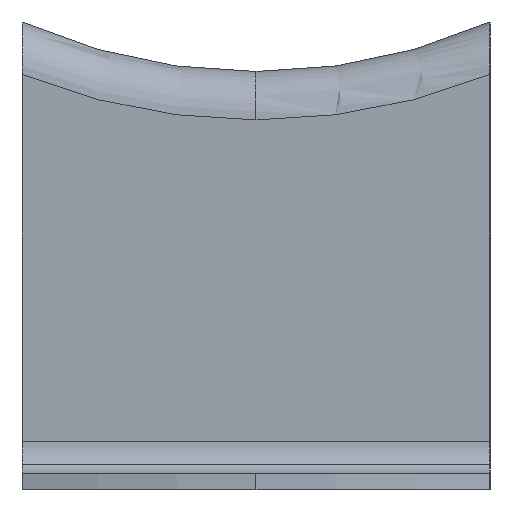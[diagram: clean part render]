
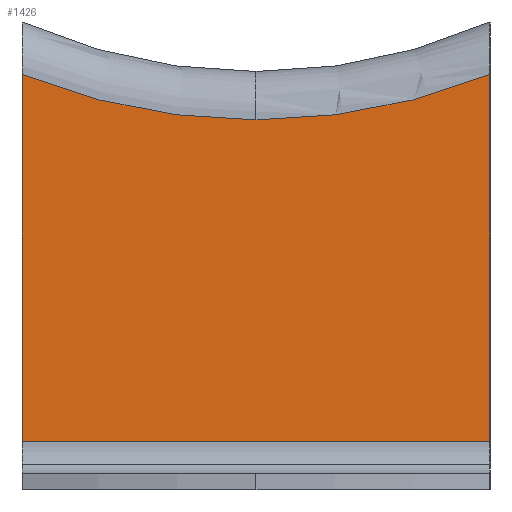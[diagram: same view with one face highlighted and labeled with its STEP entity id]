
A CAD part, left-side view. The second image highlights one B-rep face of the part: STEP entity #1426.
In plain terms, the highlighted planar face has unit normal (-1, 0, 0).
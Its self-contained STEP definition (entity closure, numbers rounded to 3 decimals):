
#487=CARTESIAN_POINT('',(-49.0,0.,8.432));
#488=VERTEX_POINT('',#487);
#505=CARTESIAN_POINT('',(-49.0,14.5,11.241));
#506=VERTEX_POINT('',#505);
#528=CARTESIAN_POINT('',(-49.0,0.,47.269));
#529=DIRECTION('',(-1.0,0.0,0.0));
#530=DIRECTION('',(0.0,0.0,-1.0));
#531=AXIS2_PLACEMENT_3D('',#528,#529,#530);
#532=CIRCLE('',#531,38.836);
#533=EDGE_CURVE('',#506,#488,#532,.T.);
#967=CARTESIAN_POINT('',(-49.0,-14.5,11.241));
#968=VERTEX_POINT('',#967);
#990=CARTESIAN_POINT('',(-49.0,-14.5,-11.5));
#991=VERTEX_POINT('',#990);
#992=CARTESIAN_POINT('',(-49.0,-14.5,-11.5));
#993=DIRECTION('',(0.0,0.0,1.0));
#994=VECTOR('',#993,22.741);
#995=LINE('',#992,#994);
#996=EDGE_CURVE('',#991,#968,#995,.T.);
#1094=CARTESIAN_POINT('',(-49.0,14.5,-11.5));
#1095=VERTEX_POINT('',#1094);
#1103=CARTESIAN_POINT('',(-49.0,14.5,11.241));
#1104=DIRECTION('',(0.0,0.0,-1.0));
#1105=VECTOR('',#1104,22.741);
#1106=LINE('',#1103,#1105);
#1107=EDGE_CURVE('',#506,#1095,#1106,.T.);
#1397=CARTESIAN_POINT('',(-49.0,0.,47.269));
#1398=DIRECTION('',(-1.0,0.0,0.0));
#1399=DIRECTION('',(0.0,0.0,-1.0));
#1400=AXIS2_PLACEMENT_3D('',#1397,#1398,#1399);
#1401=CIRCLE('',#1400,38.836);
#1402=EDGE_CURVE('',#488,#968,#1401,.T.);
#1409=CARTESIAN_POINT('',(-49.0,14.5,-13.5));
#1410=DIRECTION('',(-1.0,0.0,0.0));
#1411=DIRECTION('',(0.0,0.0,1.0));
#1412=AXIS2_PLACEMENT_3D('',#1409,#1410,#1411);
#1413=PLANE('',#1412);
#1414=ORIENTED_EDGE('',*,*,#533,.F.);
#1415=ORIENTED_EDGE('',*,*,#1107,.T.);
#1416=CARTESIAN_POINT('',(-49.0,-14.5,-11.5));
#1417=DIRECTION('',(0.0,1.0,0.0));
#1418=VECTOR('',#1417,29.0);
#1419=LINE('',#1416,#1418);
#1420=EDGE_CURVE('',#991,#1095,#1419,.T.);
#1421=ORIENTED_EDGE('',*,*,#1420,.F.);
#1422=ORIENTED_EDGE('',*,*,#996,.T.);
#1423=ORIENTED_EDGE('',*,*,#1402,.F.);
#1424=EDGE_LOOP('',(#1414,#1415,#1421,#1422,#1423));
#1425=FACE_OUTER_BOUND('',#1424,.T.);
#1426=ADVANCED_FACE('',(#1425),#1413,.T.);
